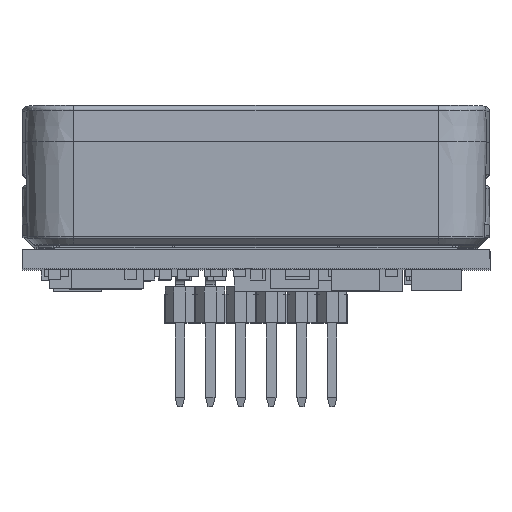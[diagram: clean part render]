
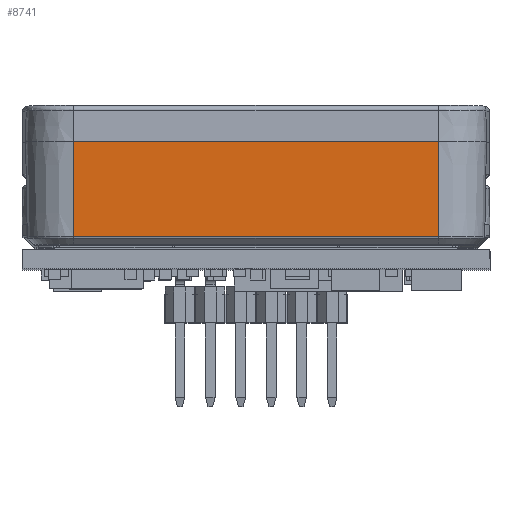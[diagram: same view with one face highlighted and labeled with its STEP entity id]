
A CAD part, top view. The second image highlights one B-rep face of the part: STEP entity #8741.
In plain terms, the highlighted planar face has unit normal (0, -0.018, 1).
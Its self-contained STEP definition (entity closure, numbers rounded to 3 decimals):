
#1508 = DIRECTION ( 'NONE',  ( 0., -0.017, 1. ) ) ;
#1723 = ORIENTED_EDGE ( 'NONE', *, *, #10422, .F. ) ;
#5514 = ORIENTED_EDGE ( 'NONE', *, *, #7746, .F. ) ;
#5702 = DIRECTION ( 'NONE',  ( 0., 1., 0.017 ) ) ;
#6663 = EDGE_LOOP ( 'NONE', ( #5514, #11684, #1723, #16255 ) ) ;
#7746 = EDGE_CURVE ( 'NONE', #41738, #15931, #17684, .T. ) ;
#8741 = ADVANCED_FACE ( 'NONE', ( #34244 ), #20015, .T. ) ;
#9206 = DIRECTION ( 'NONE',  ( 0., -1., -0.017 ) ) ;
#10422 = EDGE_CURVE ( 'NONE', #36543, #36633, #41632, .T. ) ;
#11014 = CARTESIAN_POINT ( 'NONE',  ( 7.6, 0., 4.646 ) ) ;
#11463 = DIRECTION ( 'NONE',  ( 0., -1., -0.017 ) ) ;
#11684 = ORIENTED_EDGE ( 'NONE', *, *, #36824, .F. ) ;
#14209 = DIRECTION ( 'NONE',  ( -1., 0., 0. ) ) ;
#14711 = CARTESIAN_POINT ( 'NONE',  ( 7.6, 499000., 8714.723 ) ) ;
#14982 = CARTESIAN_POINT ( 'NONE',  ( -7.6, -3.974, 4.577 ) ) ;
#15931 = VERTEX_POINT ( 'NONE', #18375 ) ;
#16255 = ORIENTED_EDGE ( 'NONE', *, *, #33035, .T. ) ;
#17278 = CARTESIAN_POINT ( 'NONE',  ( -7.6, 499000., 8714.723 ) ) ;
#17684 = LINE ( 'NONE', #17278, #32639 ) ;
#18375 = CARTESIAN_POINT ( 'NONE',  ( -7.6, 0., 4.646 ) ) ;
#20015 = PLANE ( 'NONE',  #35631 ) ;
#20848 = VECTOR ( 'NONE', #14209, 1000. ) ;
#21180 = DIRECTION ( 'NONE',  ( -1., 0., 0. ) ) ;
#32639 = VECTOR ( 'NONE', #5702, 1000. ) ;
#33035 = EDGE_CURVE ( 'NONE', #36543, #15931, #43203, .T. ) ;
#34244 = FACE_OUTER_BOUND ( 'NONE', #6663, .T. ) ;
#35631 = AXIS2_PLACEMENT_3D ( 'NONE', #37988, #1508, #9206 ) ;
#36543 = VERTEX_POINT ( 'NONE', #11014 ) ;
#36633 = VERTEX_POINT ( 'NONE', #44147 ) ;
#36824 = EDGE_CURVE ( 'NONE', #36633, #41738, #43815, .T. ) ;
#37988 = CARTESIAN_POINT ( 'NONE',  ( 0., 0., 4.646 ) ) ;
#39772 = CARTESIAN_POINT ( 'NONE',  ( 0., -3.974, 4.577 ) ) ;
#39944 = CARTESIAN_POINT ( 'NONE',  ( 0., 0., 4.646 ) ) ;
#41632 = LINE ( 'NONE', #14711, #45647 ) ;
#41738 = VERTEX_POINT ( 'NONE', #14982 ) ;
#43203 = LINE ( 'NONE', #39944, #45498 ) ;
#43815 = LINE ( 'NONE', #39772, #20848 ) ;
#44147 = CARTESIAN_POINT ( 'NONE',  ( 7.6, -3.974, 4.577 ) ) ;
#45498 = VECTOR ( 'NONE', #21180, 1000. ) ;
#45647 = VECTOR ( 'NONE', #11463, 1000. ) ;
